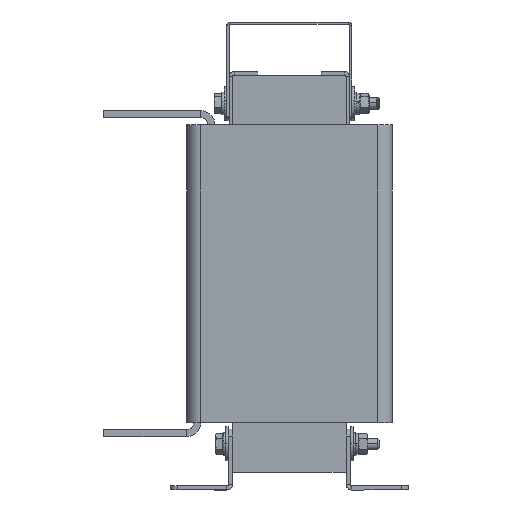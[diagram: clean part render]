
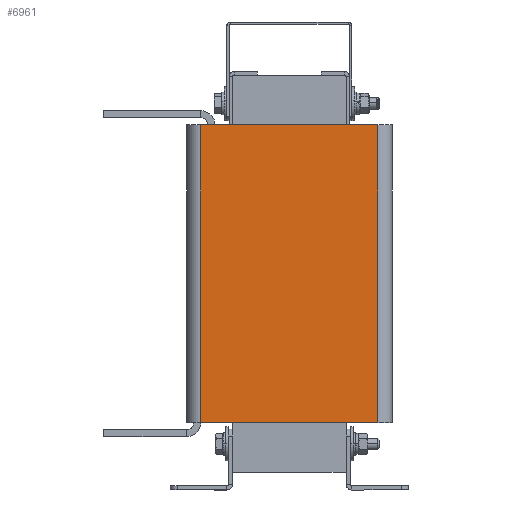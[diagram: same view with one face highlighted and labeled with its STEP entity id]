
A CAD part, left-side view. The second image highlights one B-rep face of the part: STEP entity #6961.
In plain terms, the highlighted planar face has unit normal (-1, 0, 0).
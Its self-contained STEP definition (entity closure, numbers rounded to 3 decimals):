
#65 = ORIENTED_EDGE ( 'NONE', *, *, #2153, .F. ) ;
#171 = DIRECTION ( 'NONE',  ( 0., 0., -1. ) ) ;
#356 = PLANE ( 'NONE',  #3059 ) ;
#962 = LINE ( 'NONE', #4102, #2331 ) ;
#983 = EDGE_CURVE ( 'NONE', #6695, #4079, #1165, .T. ) ;
#1165 = LINE ( 'NONE', #7748, #4489 ) ;
#1196 = DIRECTION ( 'NONE',  ( 0., 0., 1. ) ) ;
#1726 = EDGE_LOOP ( 'NONE', ( #2962, #4785, #65, #6776 ) ) ;
#2153 = EDGE_CURVE ( 'NONE', #9876, #4079, #9365, .T. ) ;
#2221 = CARTESIAN_POINT ( 'NONE',  ( -43.5, 72.5, -210. ) ) ;
#2331 = VECTOR ( 'NONE', #171, 1000. ) ;
#2636 = VECTOR ( 'NONE', #7714, 1000. ) ;
#2670 = VECTOR ( 'NONE', #5483, 1000. ) ;
#2962 = ORIENTED_EDGE ( 'NONE', *, *, #9314, .T. ) ;
#3059 = AXIS2_PLACEMENT_3D ( 'NONE', #5304, #5256, #1196 ) ;
#3510 = CARTESIAN_POINT ( 'NONE',  ( -43.5, 72.5, 0. ) ) ;
#3868 = LINE ( 'NONE', #2221, #2670 ) ;
#4079 = VERTEX_POINT ( 'NONE', #4318 ) ;
#4102 = CARTESIAN_POINT ( 'NONE',  ( -43.5, 62.5, -210. ) ) ;
#4200 = EDGE_CURVE ( 'NONE', #9876, #7453, #962, .T. ) ;
#4318 = CARTESIAN_POINT ( 'NONE',  ( -43.5, -62.5, 0. ) ) ;
#4489 = VECTOR ( 'NONE', #9394, 1000. ) ;
#4785 = ORIENTED_EDGE ( 'NONE', *, *, #983, .T. ) ;
#5256 = DIRECTION ( 'NONE',  ( -1., 0., 0. ) ) ;
#5304 = CARTESIAN_POINT ( 'NONE',  ( -43.5, 72.5, -210. ) ) ;
#5483 = DIRECTION ( 'NONE',  ( 0., -1., 0. ) ) ;
#6197 = CARTESIAN_POINT ( 'NONE',  ( -43.5, 62.5, 0. ) ) ;
#6695 = VERTEX_POINT ( 'NONE', #9562 ) ;
#6776 = ORIENTED_EDGE ( 'NONE', *, *, #4200, .T. ) ;
#6961 = ADVANCED_FACE ( 'NONE', ( #7637 ), #356, .T. ) ;
#7453 = VERTEX_POINT ( 'NONE', #8450 ) ;
#7637 = FACE_OUTER_BOUND ( 'NONE', #1726, .T. ) ;
#7714 = DIRECTION ( 'NONE',  ( 0., -1., 0. ) ) ;
#7748 = CARTESIAN_POINT ( 'NONE',  ( -43.5, -62.5, -210. ) ) ;
#8450 = CARTESIAN_POINT ( 'NONE',  ( -43.5, 62.5, -210. ) ) ;
#9314 = EDGE_CURVE ( 'NONE', #7453, #6695, #3868, .T. ) ;
#9365 = LINE ( 'NONE', #3510, #2636 ) ;
#9394 = DIRECTION ( 'NONE',  ( 0., 0., 1. ) ) ;
#9562 = CARTESIAN_POINT ( 'NONE',  ( -43.5, -62.5, -210. ) ) ;
#9876 = VERTEX_POINT ( 'NONE', #6197 ) ;
